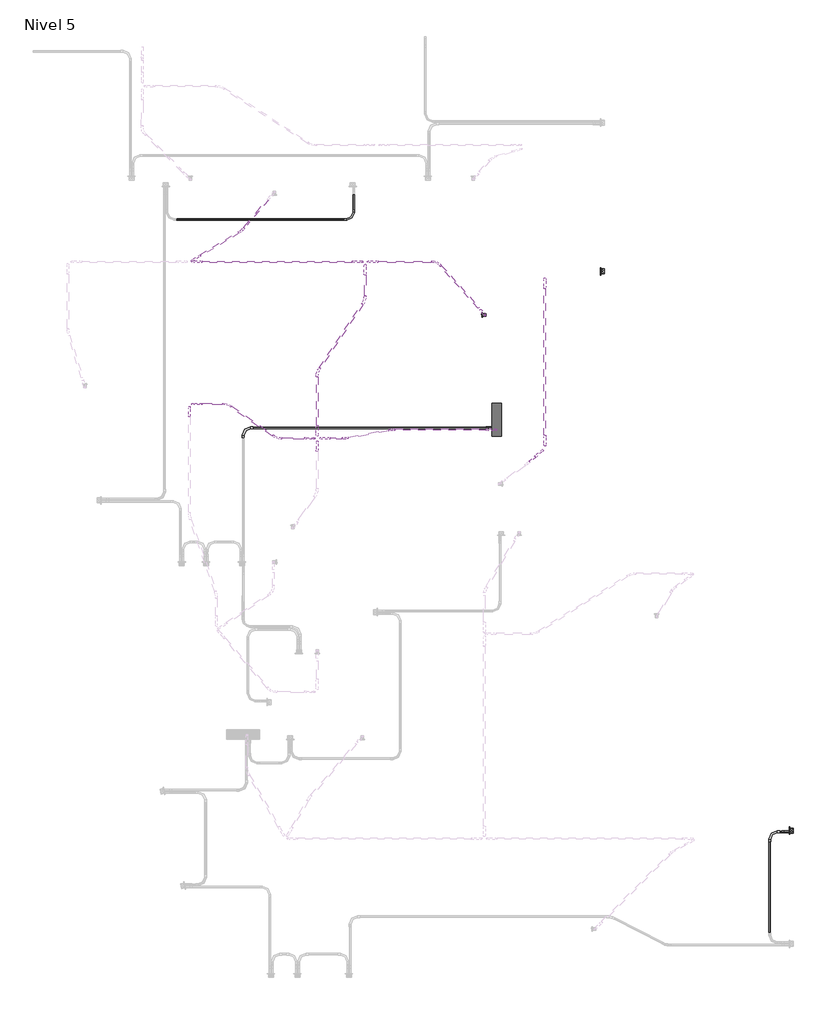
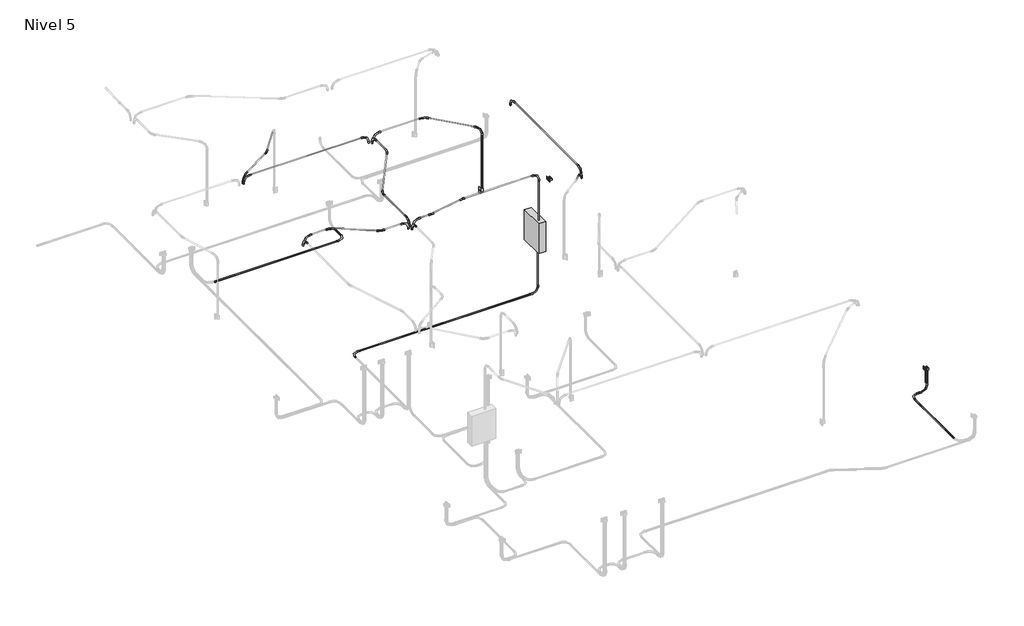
# One storey, part 6 of 9: 29 cable carrier fittings, 26 cable carrier segments, 3 proxies, 1 switching device.
"""IFC4 building model written with IfcOpenShell, lengths in millimetres."""

from ifc_helpers import new_model, si_unit, point, frame, frame_2d, origin, place, context, project, spatial, circle_curve, trimmed, segment, composite_curve, outline, extrude, transform, mapped, element, save
from components import proxy_125_a_fe578df2, gfci_180f1b41, m_codo_de_tubo_extremo_liso_pvc_9da73e12, m_codo_de_tubo_extremo_liso_pvc_102f0f41, m_codo_de_tubo_extremo_liso_pvc_df1a18ac, m_codo_de_tubo_extremo_liso_pvc_11955b95, m_codo_de_tubo_extremo_liso_pvc_c2ac5335, m_codo_de_tubo_extremo_liso_pvc_83fe7b68, m_codo_de_tubo_extremo_liso_pvc_8ae5d500, switching_device_22fed34b

model = new_model("IFC4")

# Units and contexts
model_context = context("Model", 3, world=origin())
ifc_project = project(units=[si_unit("LENGTHUNIT", "METRE", prefix="MILLI")], contexts=[model_context])

# Site, building, storey
site = spatial("IfcSite", under=ifc_project)
building = spatial("IfcBuilding", under=site)
storey = spatial("IfcBuildingStorey", under=building, Name="Nivel 5", Elevation=10750.0)

# Proxies
placement = place(None, origin())
proxy_125_a_shape = proxy_125_a_fe578df2(model_context)
element("IfcBuildingElementProxy", 1, Name="M_Cuadro de control de accesorios e iluminación - 480V MLO : 125 A", ObjectType="M_Cuadro de control de accesorios e iluminación - 480V MLO : 125 A", at=placement, inside=storey, context=model_context, shape_type="MappedRepresentation", body=[
    mapped(proxy_125_a_shape, transform((4649.9926226, 8635.4995106, 11576.1274047), x_axis=(0.0, -1.0, 0.0), y_axis=(0.0, 0.0, 1.0), z_axis=(-1.0, 0.0, 0.0))),
])
gfci_shape = gfci_180f1b41(model_context)
element("IfcBuildingElementProxy", 2, Name="Tomacorriente doble 220V : GFCI", ObjectType="Tomacorriente doble 220V : GFCI", at=placement, inside=storey, context=model_context, shape_type="MappedRepresentation", body=[
    mapped(gfci_shape, transform((6315.0, 10909.3521934, 11150.0), x_axis=(0.0, 0.0, 1.0), y_axis=(0.0, 1.0, 0.0), z_axis=(-1.0, 0.0, 0.0))),
])
element("IfcBuildingElementProxy", 3, Name="Tomacorriente doble 220V : GFCI", ObjectType="Tomacorriente doble 220V : GFCI", at=placement, inside=storey, context=model_context, shape_type="MappedRepresentation", body=[
    mapped(gfci_shape, transform((9215.0, 2333.3667637, 11150.0), x_axis=(0.0, 0.0, 1.0), y_axis=(0.0, 1.0, 0.0), z_axis=(-1.0, 0.0, 0.0))),
])

# Cable carrier fittings
m_codo_de_tubo_extremo_liso_pvc_shape = m_codo_de_tubo_extremo_liso_pvc_9da73e12(model_context)
element("IfcCableCarrierFitting", 4, ObjectType="M_Codo de tubo - Extremo liso - PVC : CODO POTENCIA", at=placement, inside=storey, context=model_context, shape_type="MappedRepresentation", body=[
    mapped(m_codo_de_tubo_extremo_liso_pvc_shape, transform((2526.0800306, 11704.6371118, 10680.0), x_axis=(1.0, 0.0, 0.0), y_axis=(0.0, 1.0, 0.0), z_axis=(0.0, 0.0, 1.0))),
])
element("IfcCableCarrierFitting", 5, ObjectType="M_Codo de tubo - Extremo liso - PVC : CODO POTENCIA", at=placement, inside=storey, context=model_context, shape_type="MappedRepresentation", body=[
    mapped(m_codo_de_tubo_extremo_liso_pvc_shape, transform((829.8960055, 8511.2917819, 10680.0), x_axis=(-1.0, 0.0, 0.0), y_axis=(0.0, -1.0, 0.0), z_axis=(0.0, 0.0, 1.0))),
])
element("IfcCableCarrierFitting", 6, ObjectType="M_Codo de tubo - Extremo liso - PVC : CODO POTENCIA", at=placement, inside=storey, context=model_context, shape_type="MappedRepresentation", body=[
    mapped(m_codo_de_tubo_extremo_liso_pvc_shape, transform((9244.6371118, 2315.3349439, 10680.0), x_axis=(0.0, 0.0, -1.0), y_axis=(-1.0, 0.0, 0.0), z_axis=(0.0, 1.0, 0.0))),
])
element("IfcCableCarrierFitting", 7, ObjectType="M_Codo de tubo - Extremo liso - PVC : CODO POTENCIA", at=placement, inside=storey, context=model_context, shape_type="MappedRepresentation", body=[
    mapped(m_codo_de_tubo_extremo_liso_pvc_shape, transform((8909.6371118, 2315.3349439, 10680.0), x_axis=(-1.0, 0.0, 0.0), y_axis=(0.0, -1.0, 0.0), z_axis=(0.0, 0.0, 1.0))),
])
element("IfcCableCarrierFitting", 8, ObjectType="M_Codo de tubo - Extremo liso - PVC : CODO POTENCIA", at=placement, inside=storey, context=model_context, shape_type="MappedRepresentation", body=[
    mapped(m_codo_de_tubo_extremo_liso_pvc_shape, transform((4709.8960055, 8511.2917819, 10680.0), x_axis=(1.0, 0.0, 0.0), y_axis=(0.0, 0.0, 1.0), z_axis=(0.0, -1.0, 0.0))),
])
element("IfcCableCarrierFitting", 9, ObjectType="M_Codo de tubo - Extremo liso - PVC : CODO ILUMINACION", at=placement, inside=storey, context=model_context, shape_type="MappedRepresentation", body=[
    mapped(m_codo_de_tubo_extremo_liso_pvc_shape, transform((2746.5762094, 11056.6360423, 13300.0), x_axis=(-1.0, 0.0, 0.0), y_axis=(0.0, 0.0, -1.0), z_axis=(0.0, -1.0, 0.0))),
])
element("IfcCableCarrierFitting", 10, ObjectType="M_Codo de tubo - Extremo liso - PVC : CODO ILUMINACION", at=placement, inside=storey, context=model_context, shape_type="MappedRepresentation", body=[
    mapped(m_codo_de_tubo_extremo_liso_pvc_shape, transform((49.5001503, 11056.6360423, 13300.0), x_axis=(-1.0, 0.0, 0.0), y_axis=(0.0, 0.0, -1.0), z_axis=(0.0, -1.0, 0.0))),
])
element("IfcCableCarrierFitting", 11, ObjectType="M_Codo de tubo - Extremo liso - PVC : CODO ILUMINACION", at=placement, inside=storey, context=model_context, shape_type="MappedRepresentation", body=[
    mapped(m_codo_de_tubo_extremo_liso_pvc_shape, transform((49.5001503, 8876.4556871, 13300.0), x_axis=(-1.0, 0.0, 0.0), y_axis=(0.0, 0.0, -1.0), z_axis=(0.0, -1.0, 0.0))),
])
element("IfcCableCarrierFitting", 12, ObjectType="M_Codo de tubo - Extremo liso - PVC : CODO ILUMINACION", at=placement, inside=storey, context=model_context, shape_type="MappedRepresentation", body=[
    mapped(m_codo_de_tubo_extremo_liso_pvc_shape, transform((2011.340289, 8348.7398103, 13300.0), x_axis=(-1.0, 0.0, 0.0), y_axis=(0.0, 0.0, -1.0), z_axis=(0.0, -1.0, 0.0))),
])
element("IfcCableCarrierFitting", 13, ObjectType="M_Codo de tubo - Extremo liso - PVC : CODO ILUMINACION", at=placement, inside=storey, context=model_context, shape_type="MappedRepresentation", body=[
    mapped(m_codo_de_tubo_extremo_liso_pvc_shape, transform((4714.397635, 8482.3459873, 13300.0), x_axis=(1.0, 0.0, 0.0), y_axis=(0.0, 0.0, -1.0), z_axis=(0.0, 1.0, 0.0))),
])
element("IfcCableCarrierFitting", 14, ObjectType="M_Codo de tubo - Extremo liso - PVC : CODO ILUMINACION", at=placement, inside=storey, context=model_context, shape_type="MappedRepresentation", body=[
    mapped(m_codo_de_tubo_extremo_liso_pvc_shape, transform((2700.0, 11010.0598329, 13300.0), x_axis=(0.0, 1.0, 0.0), y_axis=(0.0, 0.0, -1.0), z_axis=(-1.0, 0.0, 0.0))),
])
element("IfcCableCarrierFitting", 15, ObjectType="M_Codo de tubo - Extremo liso - PVC : CODO ILUMINACION", at=placement, inside=storey, context=model_context, shape_type="MappedRepresentation", body=[
    mapped(m_codo_de_tubo_extremo_liso_pvc_shape, transform((1964.7640795, 8395.3160198, 13300.0), x_axis=(0.0, -1.0, 0.0), y_axis=(0.0, 0.0, -1.0), z_axis=(1.0, 0.0, 0.0))),
])
element("IfcCableCarrierFitting", 16, ObjectType="M_Codo de tubo - Extremo liso - PVC : CODO ILUMINACION", at=placement, inside=storey, context=model_context, shape_type="MappedRepresentation", body=[
    mapped(m_codo_de_tubo_extremo_liso_pvc_shape, transform((4543.1314982, 10238.0692739, 13300.0), x_axis=(0.0, 0.0, 1.0), y_axis=(-0.6691306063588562, 0.743144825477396, 0.0), z_axis=(-0.743144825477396, -0.6691306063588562, 0.0))),
])
element("IfcCableCarrierFitting", 17, ObjectType="M_Codo de tubo - Extremo liso - PVC : CODO ILUMINACION", at=placement, inside=storey, context=model_context, shape_type="MappedRepresentation", body=[
    mapped(m_codo_de_tubo_extremo_liso_pvc_shape, transform((44.2736609, 11075.2027711, 13300.0), x_axis=(-0.8571673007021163, -0.5150380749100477, 0.0), y_axis=(0.0, 0.0, -1.0000000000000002), z_axis=(0.5150380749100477, -0.8571673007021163, 0.0))),
])
element("IfcCableCarrierFitting", 18, ObjectType="M_Codo de tubo - Extremo liso - PVC : CODO ILUMINACION", at=placement, inside=storey, context=model_context, shape_type="MappedRepresentation", body=[
    mapped(m_codo_de_tubo_extremo_liso_pvc_shape, transform((5459.0978694, 10796.8338096, 13300.0), x_axis=(0.0, 1.0, 0.0), y_axis=(0.0, 0.0, -1.0), z_axis=(-1.0, 0.0, 0.0))),
])
element("IfcCableCarrierFitting", 19, ObjectType="M_Codo de tubo - Extremo liso - PVC : CODO ILUMINACION", at=placement, inside=storey, context=model_context, shape_type="MappedRepresentation", body=[
    mapped(m_codo_de_tubo_extremo_liso_pvc_shape, transform((5425.5954721, 8167.7786507, 13300.0), x_axis=(0.7547095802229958, 0.6560590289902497, 0.0), y_axis=(0.0, 0.0, -0.9999999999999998), z_axis=(-0.6560590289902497, 0.7547095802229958, 0.0))),
])
m_codo_de_tubo_extremo_liso_pvc_2_shape = m_codo_de_tubo_extremo_liso_pvc_102f0f41(model_context)
element("IfcCableCarrierFitting", 20, ObjectType="M_Codo de tubo - Extremo liso - PVC : CODO ILUMINACION", at=placement, inside=storey, context=model_context, shape_type="MappedRepresentation", body=[
    mapped(m_codo_de_tubo_extremo_liso_pvc_2_shape, transform((2653.4237906, 11056.6360423, 13300.0), x_axis=(1.0, 0.0, 0.0), y_axis=(0.0, 0.0, 1.0), z_axis=(0.0, -1.0, 0.0))),
])
element("IfcCableCarrierFitting", 21, ObjectType="M_Codo de tubo - Extremo liso - PVC : CODO ILUMINACION", at=placement, inside=storey, context=model_context, shape_type="MappedRepresentation", body=[
    mapped(m_codo_de_tubo_extremo_liso_pvc_2_shape, transform((1918.1878701, 8348.7398103, 13300.0), x_axis=(1.0, 0.0, 0.0), y_axis=(0.0, 0.0, 1.0), z_axis=(0.0, -1.0, 0.0))),
])
element("IfcCableCarrierFitting", 22, ObjectType="M_Codo de tubo - Extremo liso - PVC : CODO ILUMINACION", at=placement, inside=storey, context=model_context, shape_type="MappedRepresentation", body=[
    mapped(m_codo_de_tubo_extremo_liso_pvc_2_shape, transform((1964.7640795, 8302.1636009, 13300.0), x_axis=(0.0, 1.0, 0.0), y_axis=(0.0, 0.0, 1.0), z_axis=(1.0, 0.0, 0.0))),
])
element("IfcCableCarrierFitting", 23, ObjectType="M_Codo de tubo - Extremo liso - PVC : CODO ILUMINACION", at=placement, inside=storey, context=model_context, shape_type="MappedRepresentation", body=[
    mapped(m_codo_de_tubo_extremo_liso_pvc_2_shape, transform((2.9239409, 8829.8794777, 13300.0), x_axis=(0.0, 1.0, 0.0), y_axis=(0.0, 0.0, 1.0), z_axis=(1.0, 0.0, 0.0))),
])
element("IfcCableCarrierFitting", 24, ObjectType="M_Codo de tubo - Extremo liso - PVC : CODO ILUMINACION", at=placement, inside=storey, context=model_context, shape_type="MappedRepresentation", body=[
    mapped(m_codo_de_tubo_extremo_liso_pvc_2_shape, transform((5459.0978694, 8241.2929521, 13300.0), x_axis=(0.0, -1.0, 0.0), y_axis=(0.0, 0.0, 1.0), z_axis=(-1.0, 0.0, 0.0))),
])
m_codo_de_tubo_extremo_liso_pvc_3_shape = m_codo_de_tubo_extremo_liso_pvc_df1a18ac(model_context)
element("IfcCableCarrierFitting", 25, ObjectType="M_Codo de tubo - Extremo liso - PVC : CODO ILUMINACION", at=placement, inside=storey, context=model_context, shape_type="MappedRepresentation", body=[
    mapped(m_codo_de_tubo_extremo_liso_pvc_3_shape, transform((805.9367367, 11532.8561184, 13300.0), x_axis=(0.8571673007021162, 0.5150380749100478, 0.0), y_axis=(-0.5150380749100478, 0.8571673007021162, 0.0), z_axis=(0.0, 0.0, 1.0))),
])
m_codo_de_tubo_extremo_liso_pvc_4_shape = m_codo_de_tubo_extremo_liso_pvc_11955b95(model_context)
element("IfcCableCarrierFitting", 26, ObjectType="M_Codo de tubo - Extremo liso - PVC : CODO ILUMINACION", at=placement, inside=storey, context=model_context, shape_type="MappedRepresentation", body=[
    mapped(m_codo_de_tubo_extremo_liso_pvc_4_shape, transform((581.9001503, 8876.4556871, 13300.0), x_axis=(-0.8227611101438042, 0.5683873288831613, 0.0), y_axis=(-0.5683873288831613, -0.8227611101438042, 0.0), z_axis=(0.0, 0.0, 1.0))),
])
element("IfcCableCarrierFitting", 27, ObjectType="M_Codo de tubo - Extremo liso - PVC : CODO ILUMINACION", at=placement, inside=storey, context=model_context, shape_type="MappedRepresentation", body=[
    mapped(m_codo_de_tubo_extremo_liso_pvc_4_shape, transform((1345.7878701, 8348.7398103, 13300.0), x_axis=(0.822761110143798, -0.5683873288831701, 0.0), y_axis=(0.5683873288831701, 0.822761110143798, 0.0), z_axis=(0.0, 0.0, 1.0))),
])
m_codo_de_tubo_extremo_liso_pvc_5_shape = m_codo_de_tubo_extremo_liso_pvc_c2ac5335(model_context)
element("IfcCableCarrierFitting", 28, ObjectType="M_Codo de tubo - Extremo liso - PVC : CODO ILUMINACION", at=placement, inside=storey, context=model_context, shape_type="MappedRepresentation", body=[
    mapped(m_codo_de_tubo_extremo_liso_pvc_5_shape, transform((2392.340289, 8348.7398103, 13300.0), x_axis=(1.0, 0.0, 0.0), y_axis=(0.0, 1.0, 0.0), z_axis=(0.0, 0.0, 1.0))),
])
element("IfcCableCarrierFitting", 29, ObjectType="M_Codo de tubo - Extremo liso - PVC : CODO ILUMINACION", at=placement, inside=storey, context=model_context, shape_type="MappedRepresentation", body=[
    mapped(m_codo_de_tubo_extremo_liso_pvc_5_shape, transform((3114.397635, 8482.3459873, 13300.0), x_axis=(-1.0, 0.0, 0.0), y_axis=(0.0, -1.0, 0.0), z_axis=(0.0, 0.0, 1.0))),
])
m_codo_de_tubo_extremo_liso_pvc_6_shape = m_codo_de_tubo_extremo_liso_pvc_83fe7b68(model_context)
element("IfcCableCarrierFitting", 30, ObjectType="M_Codo de tubo - Extremo liso - PVC : CODO ILUMINACION", at=placement, inside=storey, context=model_context, shape_type="MappedRepresentation", body=[
    mapped(m_codo_de_tubo_extremo_liso_pvc_6_shape, transform((2700.0, 10464.3964697, 13300.0), x_axis=(0.5568563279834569, 0.8306088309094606, 0.0), y_axis=(-0.8306088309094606, 0.5568563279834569, 0.0), z_axis=(0.0, 0.0, 1.0))),
])
element("IfcCableCarrierFitting", 31, ObjectType="M_Codo de tubo - Extremo liso - PVC : CODO ILUMINACION", at=placement, inside=storey, context=model_context, shape_type="MappedRepresentation", body=[
    mapped(m_codo_de_tubo_extremo_liso_pvc_6_shape, transform((1964.7640795, 9367.7160198, 13300.0), x_axis=(-0.5568563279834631, -0.8306088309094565, 0.0), y_axis=(0.8306088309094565, -0.5568563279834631, 0.0), z_axis=(0.0, 0.0, 1.0))),
])
m_codo_de_tubo_extremo_liso_pvc_7_shape = m_codo_de_tubo_extremo_liso_pvc_8ae5d500(model_context)
element("IfcCableCarrierFitting", 32, ObjectType="M_Codo de tubo - Extremo liso - PVC : CODO ILUMINACION", at=placement, inside=storey, context=model_context, shape_type="MappedRepresentation", body=[
    mapped(m_codo_de_tubo_extremo_liso_pvc_7_shape, transform((3806.0906694, 11056.6360423, 13300.0), x_axis=(-0.6691306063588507, 0.743144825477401, 0.0), y_axis=(-0.743144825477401, -0.6691306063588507, 0.0), z_axis=(0.0, 0.0, 1.0))),
])

# Cable carrier segments
element("IfcCableCarrierSegment", 33, ObjectType="PVC-SEL, POTENCIA", at=placement, inside=storey, context=model_context, shape_type="SweptSolid", body=[
    extrude(outline(composite_curve([segment(trimmed(circle_curve(frame_2d((10680.0, 2526.0800306)), 11.71), [point((10680.0, 2514.3700306))], [point((10668.29, 2526.0800306))], False, "CARTESIAN"), True, "CONTINUOUS"), segment(trimmed(circle_curve(frame_2d((10680.0, 2526.0800306)), 11.71), [point((10668.29, 2526.0800306))], [point((10680.0, 2537.7900306))], False, "CARTESIAN"), True, "CONTINUOUS"), segment(trimmed(circle_curve(frame_2d((10680.0, 2526.0800306)), 11.71), [point((10680.0, 2537.7900306))], [point((10691.71, 2526.0800306))], False, "CARTESIAN"), True, "CONTINUOUS"), segment(trimmed(circle_curve(frame_2d((10680.0, 2526.0800306)), 11.71), [point((10691.71, 2526.0800306))], [point((10680.0, 2514.3700306))], False, "CARTESIAN"), True, "CONTINUOUS")], self_intersect=False)), frame((0.0, 11857.0371118, 0.0), z_axis=(0.0, 1.0, 0.0), x_axis=(0.0, 0.0, 1.0)), (0.0, 0.0, 1.0), 235.2),
])
element("IfcCableCarrierSegment", 34, ObjectType="PVC-SEL, POTENCIA", at=placement, inside=storey, context=model_context, shape_type="SweptSolid", body=[
    extrude(outline(composite_curve([segment(trimmed(circle_curve(frame_2d((8511.2917819, 10680.0)), 11.71), [point((8499.5817819, 10680.0))], [point((8511.2917819, 10691.71))], False, "CARTESIAN"), True, "CONTINUOUS"), segment(trimmed(circle_curve(frame_2d((8511.2917819, 10680.0)), 11.71), [point((8511.2917819, 10691.71))], [point((8523.0017819, 10680.0))], False, "CARTESIAN"), True, "CONTINUOUS"), segment(trimmed(circle_curve(frame_2d((8511.2917819, 10680.0)), 11.71), [point((8523.0017819, 10680.0))], [point((8511.2917819, 10668.29))], False, "CARTESIAN"), True, "CONTINUOUS"), segment(trimmed(circle_curve(frame_2d((8511.2917819, 10680.0)), 11.71), [point((8511.2917819, 10668.29))], [point((8499.5817819, 10680.0))], False, "CARTESIAN"), True, "CONTINUOUS")], self_intersect=False)), frame((982.2960055, 0.0, 0.0), z_axis=(1.0, 0.0, 0.0), x_axis=(0.0, 1.0, 0.0)), (0.0, 0.0, 1.0), 3575.2),
])
element("IfcCableCarrierSegment", 35, ObjectType="PVC-SEL, POTENCIA", at=placement, inside=storey, context=model_context, shape_type="SweptSolid", body=[
    extrude(outline(composite_curve([segment(trimmed(circle_curve(frame_2d((11704.6371118, 10680.0)), 11.71), [point((11692.9271118, 10680.0))], [point((11704.6371118, 10691.71))], False, "CARTESIAN"), True, "CONTINUOUS"), segment(trimmed(circle_curve(frame_2d((11704.6371118, 10680.0)), 11.71), [point((11704.6371118, 10691.71))], [point((11716.3471118, 10680.0))], False, "CARTESIAN"), True, "CONTINUOUS"), segment(trimmed(circle_curve(frame_2d((11704.6371118, 10680.0)), 11.71), [point((11716.3471118, 10680.0))], [point((11704.6371118, 10668.29))], False, "CARTESIAN"), True, "CONTINUOUS"), segment(trimmed(circle_curve(frame_2d((11704.6371118, 10680.0)), 11.71), [point((11704.6371118, 10668.29))], [point((11692.9271118, 10680.0))], False, "CARTESIAN"), True, "CONTINUOUS")], self_intersect=False)), frame((-188.5279158, 0.0, 0.0), z_axis=(1.0, 0.0, 0.0), x_axis=(0.0, 1.0, 0.0)), (0.0, 0.0, 1.0), 2562.2079463),
])
element("IfcCableCarrierSegment", 36, ObjectType="PVC-SEL, POTENCIA", at=placement, inside=storey, context=model_context, shape_type="SweptSolid", body=[
    extrude(outline(composite_curve([segment(trimmed(circle_curve(frame_2d((10680.0, 8909.6371118)), 11.71), [point((10680.0, 8897.9271118))], [point((10668.29, 8909.6371118))], False, "CARTESIAN"), True, "CONTINUOUS"), segment(trimmed(circle_curve(frame_2d((10680.0, 8909.6371118)), 11.71), [point((10668.29, 8909.6371118))], [point((10680.0, 8921.3471118))], False, "CARTESIAN"), True, "CONTINUOUS"), segment(trimmed(circle_curve(frame_2d((10680.0, 8909.6371118)), 11.71), [point((10680.0, 8921.3471118))], [point((10691.71, 8909.6371118))], False, "CARTESIAN"), True, "CONTINUOUS"), segment(trimmed(circle_curve(frame_2d((10680.0, 8909.6371118)), 11.71), [point((10691.71, 8909.6371118))], [point((10680.0, 8897.9271118))], False, "CARTESIAN"), True, "CONTINUOUS")], self_intersect=False)), frame((0.0, 765.9844821, 0.0), z_axis=(0.0, 1.0, 0.0), x_axis=(0.0, 0.0, 1.0)), (0.0, 0.0, 1.0), 1396.9504618),
])
element("IfcCableCarrierSegment", 37, ObjectType="PVC-SEL, POTENCIA", at=placement, inside=storey, context=model_context, shape_type="SweptSolid", body=[
    extrude(outline(composite_curve([segment(trimmed(circle_curve(frame_2d((2315.3349439, 10680.0)), 11.71), [point((2327.0449439, 10680.0))], [point((2315.3349439, 10668.29))], False, "CARTESIAN"), True, "CONTINUOUS"), segment(trimmed(circle_curve(frame_2d((2315.3349439, 10680.0)), 11.71), [point((2315.3349439, 10668.29))], [point((2303.6249439, 10680.0))], False, "CARTESIAN"), True, "CONTINUOUS"), segment(trimmed(circle_curve(frame_2d((2315.3349439, 10680.0)), 11.71), [point((2303.6249439, 10680.0))], [point((2315.3349439, 10691.71))], False, "CARTESIAN"), True, "CONTINUOUS"), segment(trimmed(circle_curve(frame_2d((2315.3349439, 10680.0)), 11.71), [point((2315.3349439, 10691.71))], [point((2327.0449439, 10680.0))], False, "CARTESIAN"), True, "CONTINUOUS")], self_intersect=False)), frame((9062.0371118, 0.0, 0.0), z_axis=(1.0, 0.0, 0.0), x_axis=(0.0, 1.0, 0.0)), (0.0, 0.0, 1.0), 30.2),
])
element("IfcCableCarrierSegment", 38, ObjectType="PVC-SEL, POTENCIA", at=placement, inside=storey, context=model_context, shape_type="SweptSolid", body=[
    extrude(outline(composite_curve([segment(trimmed(circle_curve(frame_2d((9244.6371118, 2315.3349439)), 11.71), [point((9256.3471118, 2315.3349439))], [point((9244.6371118, 2303.6249439))], False, "CARTESIAN"), True, "CONTINUOUS"), segment(trimmed(circle_curve(frame_2d((9244.6371118, 2315.3349439)), 11.71), [point((9244.6371118, 2303.6249439))], [point((9232.9271118, 2315.3349439))], False, "CARTESIAN"), True, "CONTINUOUS"), segment(trimmed(circle_curve(frame_2d((9244.6371118, 2315.3349439)), 11.71), [point((9232.9271118, 2315.3349439))], [point((9244.6371118, 2327.0449439))], False, "CARTESIAN"), True, "CONTINUOUS"), segment(trimmed(circle_curve(frame_2d((9244.6371118, 2315.3349439)), 11.71), [point((9244.6371118, 2327.0449439))], [point((9256.3471118, 2315.3349439))], False, "CARTESIAN"), True, "CONTINUOUS")], self_intersect=False)), frame((0.0, 0.0, 10832.4), z_axis=(0.0, 0.0, 1.0), x_axis=(1.0, 0.0, 0.0)), (0.0, 0.0, 1.0), 297.3020537),
])
element("IfcCableCarrierSegment", 39, ObjectType="PVC-SEL, POTENCIA", at=placement, inside=storey, context=model_context, shape_type="SweptSolid", body=[
    extrude(outline(composite_curve([segment(trimmed(circle_curve(frame_2d((9244.6371118, 2351.3985836)), 11.71), [point((9256.3471118, 2351.3985836))], [point((9244.6371118, 2339.6885836))], False, "CARTESIAN"), True, "CONTINUOUS"), segment(trimmed(circle_curve(frame_2d((9244.6371118, 2351.3985836)), 11.71), [point((9244.6371118, 2339.6885836))], [point((9232.9271118, 2351.3985836))], False, "CARTESIAN"), True, "CONTINUOUS"), segment(trimmed(circle_curve(frame_2d((9244.6371118, 2351.3985836)), 11.71), [point((9232.9271118, 2351.3985836))], [point((9244.6371118, 2363.1085836))], False, "CARTESIAN"), True, "CONTINUOUS"), segment(trimmed(circle_curve(frame_2d((9244.6371118, 2351.3985836)), 11.71), [point((9244.6371118, 2363.1085836))], [point((9256.3471118, 2351.3985836))], False, "CARTESIAN"), True, "CONTINUOUS")], self_intersect=False)), frame((0.0, 0.0, 10832.4), z_axis=(0.0, 0.0, 1.0), x_axis=(1.0, 0.0, 0.0)), (0.0, 0.0, 1.0), 297.3020537),
])
element("IfcCableCarrierSegment", 40, ObjectType="PVC-SEL, POTENCIA", at=placement, inside=storey, context=model_context, shape_type="SweptSolid", body=[
    extrude(outline(composite_curve([segment(trimmed(circle_curve(frame_2d((4709.8960055, 8511.2917819)), 11.71), [point((4698.1860055, 8511.2917819))], [point((4709.8960055, 8523.0017819))], False, "CARTESIAN"), True, "CONTINUOUS"), segment(trimmed(circle_curve(frame_2d((4709.8960055, 8511.2917819)), 11.71), [point((4709.8960055, 8523.0017819))], [point((4721.6060055, 8511.2917819))], False, "CARTESIAN"), True, "CONTINUOUS"), segment(trimmed(circle_curve(frame_2d((4709.8960055, 8511.2917819)), 11.71), [point((4721.6060055, 8511.2917819))], [point((4709.8960055, 8499.5817819))], False, "CARTESIAN"), True, "CONTINUOUS"), segment(trimmed(circle_curve(frame_2d((4709.8960055, 8511.2917819)), 11.71), [point((4709.8960055, 8499.5817819))], [point((4698.1860055, 8511.2917819))], False, "CARTESIAN"), True, "CONTINUOUS")], self_intersect=False)), frame((0.0, 0.0, 10832.4), z_axis=(0.0, 0.0, 1.0), x_axis=(1.0, 0.0, 0.0)), (0.0, 0.0, 1.0), 817.6),
])
element("IfcCableCarrierSegment", 41, ObjectType="PVC-SEL ILUMINACION", at=placement, inside=storey, context=model_context, shape_type="SweptSolid", body=[
    extrude(outline(composite_curve([segment(trimmed(circle_curve(frame_2d((11056.6360423, 13300.0)), 11.71), [point((11068.3460423, 13300.0))], [point((11056.6360423, 13288.29))], False, "CARTESIAN"), True, "CONTINUOUS"), segment(trimmed(circle_curve(frame_2d((11056.6360423, 13300.0)), 11.71), [point((11056.6360423, 13288.29))], [point((11044.9260423, 13300.0))], False, "CARTESIAN"), True, "CONTINUOUS"), segment(trimmed(circle_curve(frame_2d((11056.6360423, 13300.0)), 11.71), [point((11044.9260423, 13300.0))], [point((11056.6360423, 13311.71))], False, "CARTESIAN"), True, "CONTINUOUS"), segment(trimmed(circle_curve(frame_2d((11056.6360423, 13300.0)), 11.71), [point((11056.6360423, 13311.71))], [point((11068.3460423, 13300.0))], False, "CARTESIAN"), True, "CONTINUOUS")], self_intersect=False)), frame((201.9001503, 0.0, 0.0), z_axis=(1.0, 0.0, 0.0), x_axis=(0.0, 1.0, 0.0)), (0.0, 0.0, 1.0), 2299.1236403),
])
element("IfcCableCarrierSegment", 42, ObjectType="PVC-SEL ILUMINACION", at=placement, inside=storey, context=model_context, shape_type="SweptSolid", body=[
    extrude(outline(composite_curve([segment(trimmed(circle_curve(frame_2d((8876.4556871, 13300.0)), 11.71), [point((8864.7456871, 13300.0))], [point((8876.4556871, 13311.71))], False, "CARTESIAN"), True, "CONTINUOUS"), segment(trimmed(circle_curve(frame_2d((8876.4556871, 13300.0)), 11.71), [point((8876.4556871, 13311.71))], [point((8888.1656871, 13300.0))], False, "CARTESIAN"), True, "CONTINUOUS"), segment(trimmed(circle_curve(frame_2d((8876.4556871, 13300.0)), 11.71), [point((8888.1656871, 13300.0))], [point((8876.4556871, 13288.29))], False, "CARTESIAN"), True, "CONTINUOUS"), segment(trimmed(circle_curve(frame_2d((8876.4556871, 13300.0)), 11.71), [point((8876.4556871, 13288.29))], [point((8864.7456871, 13300.0))], False, "CARTESIAN"), True, "CONTINUOUS")], self_intersect=False)), frame((201.9001503, 0.0, 0.0), z_axis=(1.0, 0.0, 0.0), x_axis=(0.0, 1.0, 0.0)), (0.0, 0.0, 1.0), 306.2580986),
])
element("IfcCableCarrierSegment", 43, ObjectType="PVC-SEL ILUMINACION", at=placement, inside=storey, context=model_context, shape_type="SweptSolid", body=[
    extrude(outline(composite_curve([segment(trimmed(circle_curve(frame_2d((8348.7398103, 13300.0)), 11.71), [point((8360.4498103, 13300.0))], [point((8348.7398103, 13288.29))], False, "CARTESIAN"), True, "CONTINUOUS"), segment(trimmed(circle_curve(frame_2d((8348.7398103, 13300.0)), 11.71), [point((8348.7398103, 13288.29))], [point((8337.0298103, 13300.0))], False, "CARTESIAN"), True, "CONTINUOUS"), segment(trimmed(circle_curve(frame_2d((8348.7398103, 13300.0)), 11.71), [point((8337.0298103, 13300.0))], [point((8348.7398103, 13311.71))], False, "CARTESIAN"), True, "CONTINUOUS"), segment(trimmed(circle_curve(frame_2d((8348.7398103, 13300.0)), 11.71), [point((8348.7398103, 13311.71))], [point((8360.4498103, 13300.0))], False, "CARTESIAN"), True, "CONTINUOUS")], self_intersect=False)), frame((1419.5297715, 0.0, 0.0), z_axis=(1.0, 0.0, 0.0), x_axis=(0.0, 1.0, 0.0)), (0.0, 0.0, 1.0), 346.2580986),
])
element("IfcCableCarrierSegment", 44, ObjectType="PVC-SEL ILUMINACION", at=placement, inside=storey, context=model_context, shape_type="SweptSolid", body=[
    extrude(outline(composite_curve([segment(trimmed(circle_curve(frame_2d((0.0, -11.71)), 11.71), [point((-11.71, -11.71))], [point((0.0, 0.0))], False, "CARTESIAN"), True, "CONTINUOUS"), segment(trimmed(circle_curve(frame_2d((0.0, -11.71)), 11.71), [point((0.0, 0.0))], [point((11.71, -11.71))], False, "CARTESIAN"), True, "CONTINUOUS"), segment(trimmed(circle_curve(frame_2d((0.0, -11.71)), 11.71), [point((11.71, -11.71))], [point((0.0, -23.42))], False, "CARTESIAN"), True, "CONTINUOUS"), segment(trimmed(circle_curve(frame_2d((0.0, -11.71)), 11.71), [point((0.0, -23.42))], [point((-11.71, -11.71))], False, "CARTESIAN"), True, "CONTINUOUS")], self_intersect=False)), frame((1285.1159015, 8390.6537727, 13288.29), z_axis=(-0.8227611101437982, 0.5683873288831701, 0.0), x_axis=(0.5683873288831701, 0.8227611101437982, 0.0)), (0.0, 0.0, 1.0), 780.9603233),
])
element("IfcCableCarrierSegment", 45, ObjectType="PVC-SEL ILUMINACION", at=placement, inside=storey, context=model_context, shape_type="SweptSolid", body=[
    extrude(outline(composite_curve([segment(trimmed(circle_curve(frame_2d((0.0, 11.71)), 11.71), [point((11.7100001, 11.71))], [point((0.0, 0.0))], False, "CARTESIAN"), True, "CONTINUOUS"), segment(trimmed(circle_curve(frame_2d((0.0, 11.71)), 11.71), [point((0.0, 0.0))], [point((-11.71, 11.71))], False, "CARTESIAN"), True, "CONTINUOUS"), segment(trimmed(circle_curve(frame_2d((0.0, 11.71)), 11.71), [point((-11.71, 11.71))], [point((0.0, 23.42))], False, "CARTESIAN"), True, "CONTINUOUS"), segment(trimmed(circle_curve(frame_2d((0.0, 11.71)), 11.71), [point((0.0, 23.42))], [point((11.7100001, 11.71))], False, "CARTESIAN"), True, "CONTINUOUS")], self_intersect=False)), frame((2440.1150886, 8357.57984, 13311.71), z_axis=(0.9833083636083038, 0.1819468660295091, 0.0), x_axis=(0.1819468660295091, -0.9833083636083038, 0.0)), (0.0, 0.0, 1.0), 637.1427009),
])
element("IfcCableCarrierSegment", 46, ObjectType="PVC-SEL ILUMINACION", at=placement, inside=storey, context=model_context, shape_type="SweptSolid", body=[
    extrude(outline(composite_curve([segment(trimmed(circle_curve(frame_2d((8348.7398103, 13300.0)), 11.71), [point((8337.0298103, 13300.0))], [point((8348.7398103, 13311.71))], False, "CARTESIAN"), True, "CONTINUOUS"), segment(trimmed(circle_curve(frame_2d((8348.7398103, 13300.0)), 11.71), [point((8348.7398103, 13311.71))], [point((8360.4498103, 13300.0))], False, "CARTESIAN"), True, "CONTINUOUS"), segment(trimmed(circle_curve(frame_2d((8348.7398103, 13300.0)), 11.71), [point((8360.4498103, 13300.0))], [point((8348.7398103, 13288.29))], False, "CARTESIAN"), True, "CONTINUOUS"), segment(trimmed(circle_curve(frame_2d((8348.7398103, 13300.0)), 11.71), [point((8348.7398103, 13288.29))], [point((8337.0298103, 13300.0))], False, "CARTESIAN"), True, "CONTINUOUS")], self_intersect=False)), frame((2163.740289, 0.0, 0.0), z_axis=(1.0, 0.0, 0.0), x_axis=(0.0, 1.0, 0.0)), (0.0, 0.0, 1.0), 180.0142242),
])
element("IfcCableCarrierSegment", 47, ObjectType="PVC-SEL ILUMINACION", at=placement, inside=storey, context=model_context, shape_type="SweptSolid", body=[
    extrude(outline(composite_curve([segment(trimmed(circle_curve(frame_2d((8482.3459873, 13300.0)), 11.71), [point((8470.6359873, 13300.0))], [point((8482.3459873, 13311.71))], False, "CARTESIAN"), True, "CONTINUOUS"), segment(trimmed(circle_curve(frame_2d((8482.3459873, 13300.0)), 11.71), [point((8482.3459873, 13311.71))], [point((8494.0559873, 13300.0))], False, "CARTESIAN"), True, "CONTINUOUS"), segment(trimmed(circle_curve(frame_2d((8482.3459873, 13300.0)), 11.71), [point((8494.0559873, 13300.0))], [point((8482.3459873, 13288.29))], False, "CARTESIAN"), True, "CONTINUOUS"), segment(trimmed(circle_curve(frame_2d((8482.3459873, 13300.0)), 11.71), [point((8482.3459873, 13288.29))], [point((8470.6359873, 13300.0))], False, "CARTESIAN"), True, "CONTINUOUS")], self_intersect=False)), frame((3162.9834107, 0.0, 0.0), z_axis=(1.0, 0.0, 0.0), x_axis=(0.0, 1.0, 0.0)), (0.0, 0.0, 1.0), 1399.0142242),
])
element("IfcCableCarrierSegment", 48, ObjectType="PVC-SEL ILUMINACION", at=placement, inside=storey, context=model_context, shape_type="SweptSolid", body=[
    extrude(outline(composite_curve([segment(trimmed(circle_curve(frame_2d((4714.397635, 8482.3459873)), 11.71), [point((4702.687635, 8482.3459873))], [point((4714.397635, 8494.0559873))], False, "CARTESIAN"), True, "CONTINUOUS"), segment(trimmed(circle_curve(frame_2d((4714.397635, 8482.3459873)), 11.71), [point((4714.397635, 8494.0559873))], [point((4726.107635, 8482.3459873))], False, "CARTESIAN"), True, "CONTINUOUS"), segment(trimmed(circle_curve(frame_2d((4714.397635, 8482.3459873)), 11.71), [point((4726.107635, 8482.3459873))], [point((4714.397635, 8470.6359873))], False, "CARTESIAN"), True, "CONTINUOUS"), segment(trimmed(circle_curve(frame_2d((4714.397635, 8482.3459873)), 11.71), [point((4714.397635, 8470.6359873))], [point((4702.687635, 8482.3459873))], False, "CARTESIAN"), True, "CONTINUOUS")], self_intersect=False)), frame((0.0, 0.0, 12250.0), z_axis=(0.0, 0.0, 1.0), x_axis=(1.0, 0.0, 0.0)), (0.0, 0.0, 1.0), 897.6),
])
element("IfcCableCarrierSegment", 49, ObjectType="PVC-SEL ILUMINACION", at=placement, inside=storey, context=model_context, shape_type="SweptSolid", body=[
    extrude(outline(composite_curve([segment(trimmed(circle_curve(frame_2d((13300.0, 2700.0)), 11.71), [point((13300.0, 2688.29))], [point((13288.29, 2700.0))], False, "CARTESIAN"), True, "CONTINUOUS"), segment(trimmed(circle_curve(frame_2d((13300.0, 2700.0)), 11.71), [point((13288.29, 2700.0))], [point((13300.0, 2711.71))], False, "CARTESIAN"), True, "CONTINUOUS"), segment(trimmed(circle_curve(frame_2d((13300.0, 2700.0)), 11.71), [point((13300.0, 2711.71))], [point((13311.71, 2700.0))], False, "CARTESIAN"), True, "CONTINUOUS"), segment(trimmed(circle_curve(frame_2d((13300.0, 2700.0)), 11.71), [point((13311.71, 2700.0))], [point((13300.0, 2688.29))], False, "CARTESIAN"), True, "CONTINUOUS")], self_intersect=False)), frame((0.0, 10537.2656007, 0.0), z_axis=(0.0, 1.0, 0.0), x_axis=(0.0, 0.0, 1.0)), (0.0, 0.0, 1.0), 320.3942322),
])
element("IfcCableCarrierSegment", 50, ObjectType="PVC-SEL ILUMINACION", at=placement, inside=storey, context=model_context, shape_type="SweptSolid", body=[
    extrude(outline(composite_curve([segment(trimmed(circle_curve(frame_2d((13300.0, 1964.7640795)), 11.71), [point((13300.0, 1976.4740795))], [point((13311.71, 1964.7640795))], False, "CARTESIAN"), True, "CONTINUOUS"), segment(trimmed(circle_curve(frame_2d((13300.0, 1964.7640795)), 11.71), [point((13311.71, 1964.7640795))], [point((13300.0, 1953.0540795))], False, "CARTESIAN"), True, "CONTINUOUS"), segment(trimmed(circle_curve(frame_2d((13300.0, 1964.7640795)), 11.71), [point((13300.0, 1953.0540795))], [point((13288.29, 1964.7640795))], False, "CARTESIAN"), True, "CONTINUOUS"), segment(trimmed(circle_curve(frame_2d((13300.0, 1964.7640795)), 11.71), [point((13288.29, 1964.7640795))], [point((13300.0, 1976.4740795))], False, "CARTESIAN"), True, "CONTINUOUS")], self_intersect=False)), frame((0.0, 8547.7160198, 0.0), z_axis=(0.0, 1.0, 0.0), x_axis=(0.0, 0.0, 1.0)), (0.0, 0.0, 1.0), 747.130869),
])
element("IfcCableCarrierSegment", 51, ObjectType="PVC-SEL ILUMINACION", at=placement, inside=storey, context=model_context, shape_type="SweptSolid", body=[
    extrude(outline(composite_curve([segment(trimmed(circle_curve(frame_2d((0.0, -11.71)), 11.71), [point((-11.71, -11.71))], [point((0.0, 0.0))], False, "CARTESIAN"), True, "CONTINUOUS"), segment(trimmed(circle_curve(frame_2d((0.0, -11.71)), 11.71), [point((0.0, 0.0))], [point((11.71, -11.71))], False, "CARTESIAN"), True, "CONTINUOUS"), segment(trimmed(circle_curve(frame_2d((0.0, -11.71)), 11.71), [point((11.71, -11.71))], [point((0.0, -23.42))], False, "CARTESIAN"), True, "CONTINUOUS"), segment(trimmed(circle_curve(frame_2d((0.0, -11.71)), 11.71), [point((0.0, -23.42))], [point((-11.71, -11.71))], False, "CARTESIAN"), True, "CONTINUOUS")], self_intersect=False)), frame((2005.3417163, 9428.2417635, 13288.29), z_axis=(0.5568563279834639, 0.8306088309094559, 0.0), x_axis=(0.8306088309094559, -0.5568563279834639, 0.0)), (0.0, 0.0, 1.0), 1174.5949792),
])
element("IfcCableCarrierSegment", 52, ObjectType="PVC-SEL ILUMINACION", at=placement, inside=storey, context=model_context, shape_type="SweptSolid", body=[
    extrude(outline(composite_curve([segment(trimmed(circle_curve(frame_2d((0.0, 11.71)), 11.71), [point((11.71, 11.71))], [point((0.0, 0.0))], False, "CARTESIAN"), True, "CONTINUOUS"), segment(trimmed(circle_curve(frame_2d((0.0, 11.71)), 11.71), [point((0.0, 0.0))], [point((-11.71, 11.71))], False, "CARTESIAN"), True, "CONTINUOUS"), segment(trimmed(circle_curve(frame_2d((0.0, 11.71)), 11.71), [point((-11.71, 11.71))], [point((0.0, 23.42))], False, "CARTESIAN"), True, "CONTINUOUS"), segment(trimmed(circle_curve(frame_2d((0.0, 11.71)), 11.71), [point((0.0, 23.42))], [point((11.71, 11.71))], False, "CARTESIAN"), True, "CONTINUOUS")], self_intersect=False)), frame((4441.1559938, 10351.3245453, 13311.71), z_axis=(-0.6691306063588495, 0.7431448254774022, 0.0), x_axis=(0.7431448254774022, 0.6691306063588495, 0.0)), (0.0, 0.0, 1.0), 860.1005962),
])
element("IfcCableCarrierSegment", 53, ObjectType="PVC-SEL ILUMINACION", at=placement, inside=storey, context=model_context, shape_type="SweptSolid", body=[
    extrude(outline(composite_curve([segment(trimmed(circle_curve(frame_2d((4543.1314982, 10238.0692739)), 11.71), [point((4531.4214982, 10238.0692739))], [point((4543.1314982, 10249.7792739))], False, "CARTESIAN"), True, "CONTINUOUS"), segment(trimmed(circle_curve(frame_2d((4543.1314982, 10238.0692739)), 11.71), [point((4543.1314982, 10249.7792739))], [point((4554.8414982, 10238.0692739))], False, "CARTESIAN"), True, "CONTINUOUS"), segment(trimmed(circle_curve(frame_2d((4543.1314982, 10238.0692739)), 11.71), [point((4554.8414982, 10238.0692739))], [point((4543.1314982, 10226.3592739))], False, "CARTESIAN"), True, "CONTINUOUS"), segment(trimmed(circle_curve(frame_2d((4543.1314982, 10238.0692739)), 11.71), [point((4543.1314982, 10226.3592739))], [point((4531.4214982, 10238.0692739))], False, "CARTESIAN"), True, "CONTINUOUS")], self_intersect=False)), frame((0.0, 0.0, 11990.2227463), z_axis=(0.0, 0.0, 1.0), x_axis=(1.0, 0.0, 0.0)), (0.0, 0.0, 1.0), 1157.3772537),
])
element("IfcCableCarrierSegment", 54, ObjectType="PVC-SEL ILUMINACION", at=placement, inside=storey, context=model_context, shape_type="SweptSolid", body=[
    extrude(outline(composite_curve([segment(trimmed(circle_curve(frame_2d((11056.6360423, 13300.0)), 11.71), [point((11044.9260423, 13300.0))], [point((11056.6360423, 13311.71))], False, "CARTESIAN"), True, "CONTINUOUS"), segment(trimmed(circle_curve(frame_2d((11056.6360423, 13300.0)), 11.71), [point((11056.6360423, 13311.71))], [point((11068.3460423, 13300.0))], False, "CARTESIAN"), True, "CONTINUOUS"), segment(trimmed(circle_curve(frame_2d((11056.6360423, 13300.0)), 11.71), [point((11068.3460423, 13300.0))], [point((11056.6360423, 13288.29))], False, "CARTESIAN"), True, "CONTINUOUS"), segment(trimmed(circle_curve(frame_2d((11056.6360423, 13300.0)), 11.71), [point((11056.6360423, 13288.29))], [point((11044.9260423, 13300.0))], False, "CARTESIAN"), True, "CONTINUOUS")], self_intersect=False)), frame((2898.9762094, 0.0, 0.0), z_axis=(1.0, 0.0, 0.0), x_axis=(0.0, 1.0, 0.0)), (0.0, 0.0, 1.0), 818.1248213),
])
element("IfcCableCarrierSegment", 55, ObjectType="PVC-SEL ILUMINACION", at=placement, inside=storey, context=model_context, shape_type="SweptSolid", body=[
    extrude(outline(composite_curve([segment(trimmed(circle_curve(frame_2d((0.0, -11.71)), 11.71), [point((-11.7099999, -11.71))], [point((0.0, 0.0))], False, "CARTESIAN"), True, "CONTINUOUS"), segment(trimmed(circle_curve(frame_2d((0.0, -11.71)), 11.71), [point((0.0, 0.0))], [point((11.71, -11.71))], False, "CARTESIAN"), True, "CONTINUOUS"), segment(trimmed(circle_curve(frame_2d((0.0, -11.71)), 11.71), [point((11.71, -11.71))], [point((0.0, -23.42))], False, "CARTESIAN"), True, "CONTINUOUS"), segment(trimmed(circle_curve(frame_2d((0.0, -11.71)), 11.71), [point((0.0, -23.42))], [point((-11.7099999, -11.71))], False, "CARTESIAN"), True, "CONTINUOUS")], self_intersect=False)), frame((174.9059575, 11153.6945738, 13288.29), z_axis=(0.8571673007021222, 0.5150380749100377, 0.0), x_axis=(0.5150380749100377, -0.8571673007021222, 0.0)), (0.0, 0.0, 1.0), 678.9543215),
])
element("IfcCableCarrierSegment", 56, ObjectType="PVC-SEL ILUMINACION", at=placement, inside=storey, context=model_context, shape_type="SweptSolid", body=[
    extrude(outline(composite_curve([segment(trimmed(circle_curve(frame_2d((0.0, -11.71)), 11.71), [point((-11.71, -11.71))], [point((0.0, 0.0))], False, "CARTESIAN"), True, "CONTINUOUS"), segment(trimmed(circle_curve(frame_2d((0.0, -11.71)), 11.71), [point((0.0, 0.0))], [point((11.71, -11.71))], False, "CARTESIAN"), True, "CONTINUOUS"), segment(trimmed(circle_curve(frame_2d((0.0, -11.71)), 11.71), [point((11.71, -11.71))], [point((0.0, -23.42))], False, "CARTESIAN"), True, "CONTINUOUS"), segment(trimmed(circle_curve(frame_2d((0.0, -11.71)), 11.71), [point((0.0, -23.42))], [point((-11.71, -11.71))], False, "CARTESIAN"), True, "CONTINUOUS")], self_intersect=False)), frame((842.7217105, 11576.694743, 13288.29), z_axis=(0.6427876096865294, 0.7660444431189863, 0.0), x_axis=(0.7660444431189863, -0.6427876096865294, 0.0)), (0.0, 0.0, 1.0), 567.4591904),
])
element("IfcCableCarrierSegment", 57, ObjectType="PVC-SEL ILUMINACION", at=placement, inside=storey, context=model_context, shape_type="SweptSolid", body=[
    extrude(outline(composite_curve([segment(trimmed(circle_curve(frame_2d((0.0, -11.71)), 11.71), [point((-11.7100001, -11.71))], [point((0.0, 0.0))], False, "CARTESIAN"), True, "CONTINUOUS"), segment(trimmed(circle_curve(frame_2d((0.0, -11.71)), 11.71), [point((0.0, 0.0))], [point((11.71, -11.71))], False, "CARTESIAN"), True, "CONTINUOUS"), segment(trimmed(circle_curve(frame_2d((0.0, -11.71)), 11.71), [point((11.71, -11.71))], [point((0.0, -23.42))], False, "CARTESIAN"), True, "CONTINUOUS"), segment(trimmed(circle_curve(frame_2d((0.0, -11.71)), 11.71), [point((0.0, -23.42))], [point((-11.7100001, -11.71))], False, "CARTESIAN"), True, "CONTINUOUS")], self_intersect=False)), frame((5222.3577459, 7991.1067907, 13288.29), z_axis=(0.7547095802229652, 0.6560590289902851, 0.0), x_axis=(0.6560590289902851, -0.7547095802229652, 0.0)), (0.0, 0.0, 1.0), 116.892628),
])
element("IfcCableCarrierSegment", 58, ObjectType="PVC-SEL ILUMINACION", at=placement, inside=storey, context=model_context, shape_type="SweptSolid", body=[
    extrude(outline(composite_curve([segment(trimmed(circle_curve(frame_2d((13300.0, 5459.0978694)), 11.71), [point((13300.0, 5470.8078694))], [point((13311.71, 5459.0978694))], False, "CARTESIAN"), True, "CONTINUOUS"), segment(trimmed(circle_curve(frame_2d((13300.0, 5459.0978694)), 11.71), [point((13311.71, 5459.0978694))], [point((13300.0, 5447.3878694))], False, "CARTESIAN"), True, "CONTINUOUS"), segment(trimmed(circle_curve(frame_2d((13300.0, 5459.0978694)), 11.71), [point((13300.0, 5447.3878694))], [point((13288.29, 5459.0978694))], False, "CARTESIAN"), True, "CONTINUOUS"), segment(trimmed(circle_curve(frame_2d((13300.0, 5459.0978694)), 11.71), [point((13288.29, 5459.0978694))], [point((13300.0, 5470.8078694))], False, "CARTESIAN"), True, "CONTINUOUS")], self_intersect=False)), frame((0.0, 8393.6929521, 0.0), z_axis=(0.0, 1.0, 0.0), x_axis=(0.0, 0.0, 1.0)), (0.0, 0.0, 1.0), 2250.7408574),
])

# Switching device
switching_device_shape = switching_device_22fed34b(model_context)
element("IfcSwitchingDevice", 59, ObjectType="Interruptor : Tridireccional", at=placement, inside=storey, context=model_context, shape_type="MappedRepresentation", body=[
    mapped(switching_device_shape, transform((4499.9926226, 10238.0194282, 11950.0), x_axis=(0.0, -1.0, 0.0), y_axis=(0.0, 0.0, 1.0), z_axis=(-1.0, 0.0, 0.0))),
])

save(model, "model.ifc")
